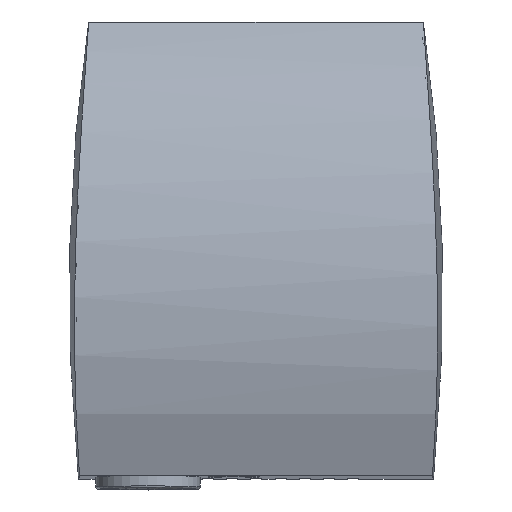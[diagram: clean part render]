
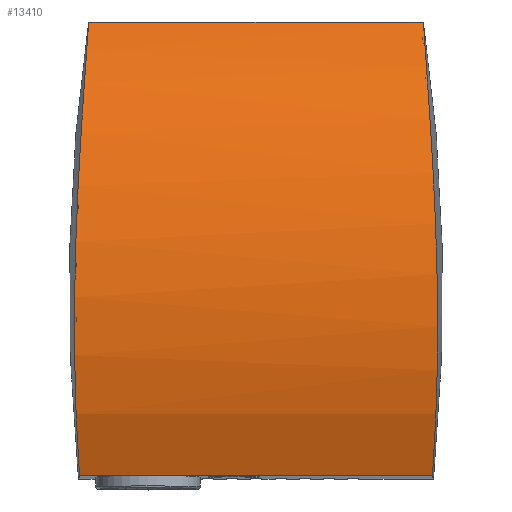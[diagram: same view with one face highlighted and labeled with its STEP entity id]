
A CAD part, top view. The second image highlights one B-rep face of the part: STEP entity #13410.
In plain terms, the highlighted cylindrical face has radius 325 mm (diameter 650 mm), a partial arc.
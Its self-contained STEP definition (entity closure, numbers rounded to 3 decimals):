
#12621=CARTESIAN_POINT('',(145.443,-115.619,174.966));
#12622=VERTEX_POINT('',#12621);
#12630=CARTESIAN_POINT('',(-145.443,-115.619,174.966));
#12631=VERTEX_POINT('',#12630);
#12632=CARTESIAN_POINT('',(-145.443,-115.619,174.966));
#12633=DIRECTION('',(1.0,0.0,0.0));
#12634=VECTOR('',#12633,290.887);
#12635=LINE('',#12632,#12634);
#12636=EDGE_CURVE('',#12631,#12622,#12635,.T.);
#13328=CARTESIAN_POINT('',(0.0,-62.721,-145.7));
#13329=DIRECTION('',(-1.0,0.0,0.0));
#13330=DIRECTION('',(0.0,0.893,0.45));
#13331=AXIS2_PLACEMENT_3D('',#13328,#13329,#13330);
#13332=CYLINDRICAL_SURFACE('',#13331,325.0);
#13333=CARTESIAN_POINT('',(137.911,227.438,0.7));
#13334=VERTEX_POINT('',#13333);
#13335=CARTESIAN_POINT('',(148.234,-62.721,179.3));
#13336=VERTEX_POINT('',#13335);
#13337=CARTESIAN_POINT('',(137.911,227.438,0.7));
#13338=CARTESIAN_POINT('',(138.538,220.587,14.278));
#13339=CARTESIAN_POINT('',(139.257,212.895,27.122));
#13340=CARTESIAN_POINT('',(140.794,195.926,51.699));
#13341=CARTESIAN_POINT('',(141.684,185.846,64.319));
#13342=CARTESIAN_POINT('',(143.504,163.449,88.268));
#13343=CARTESIAN_POINT('',(144.432,151.131,99.596));
#13344=CARTESIAN_POINT('',(146.153,124.897,120.2));
#13345=CARTESIAN_POINT('',(146.944,110.967,129.484));
#13346=CARTESIAN_POINT('',(148.247,82.376,145.575));
#13347=CARTESIAN_POINT('',(148.757,67.713,152.381));
#13348=CARTESIAN_POINT('',(149.431,38.818,163.416));
#13349=CARTESIAN_POINT('',(149.625,23.409,168.106));
#13350=CARTESIAN_POINT('',(149.598,-8.519,175.165));
#13351=CARTESIAN_POINT('',(149.376,-25.036,177.535));
#13352=CARTESIAN_POINT('',(148.736,-48.653,179.072));
#13353=CARTESIAN_POINT('',(148.505,-55.698,179.3));
#13354=CARTESIAN_POINT('',(148.234,-62.721,179.3));
#13355=B_SPLINE_CURVE_WITH_KNOTS('',3,(#13337,#13338,#13339,#13340,#13341,#13342,#13343,#13344,#13345,#13346,#13347,#13348,#13349,#13350,#13351,#13352,#13353,#13354),.UNSPECIFIED.,.F.,.U.,(4,2,2,2,2,2,2,2,4),(51.402,55.723,60.374,65.024,69.674,74.324,78.955,83.586,85.549),.UNSPECIFIED.);
#13356=EDGE_CURVE('',#13334,#13336,#13355,.T.);
#13357=ORIENTED_EDGE('',*,*,#13356,.F.);
#13358=CARTESIAN_POINT('',(-137.911,227.438,0.7));
#13359=VERTEX_POINT('',#13358);
#13360=CARTESIAN_POINT('',(-137.911,227.438,0.7));
#13361=DIRECTION('',(1.0,0.0,0.0));
#13362=VECTOR('',#13361,275.822);
#13363=LINE('',#13360,#13362);
#13364=EDGE_CURVE('',#13359,#13334,#13363,.T.);
#13365=ORIENTED_EDGE('',*,*,#13364,.F.);
#13366=CARTESIAN_POINT('',(-148.234,-62.721,179.3));
#13367=VERTEX_POINT('',#13366);
#13368=CARTESIAN_POINT('',(-148.234,-62.721,179.3));
#13369=CARTESIAN_POINT('',(-148.505,-55.698,179.3));
#13370=CARTESIAN_POINT('',(-148.736,-48.653,179.072));
#13371=CARTESIAN_POINT('',(-149.376,-25.036,177.535));
#13372=CARTESIAN_POINT('',(-149.598,-8.519,175.165));
#13373=CARTESIAN_POINT('',(-149.625,23.409,168.106));
#13374=CARTESIAN_POINT('',(-149.431,38.818,163.416));
#13375=CARTESIAN_POINT('',(-148.757,67.713,152.381));
#13376=CARTESIAN_POINT('',(-148.247,82.376,145.575));
#13377=CARTESIAN_POINT('',(-146.944,110.967,129.484));
#13378=CARTESIAN_POINT('',(-146.153,124.897,120.2));
#13379=CARTESIAN_POINT('',(-144.432,151.131,99.596));
#13380=CARTESIAN_POINT('',(-143.504,163.449,88.268));
#13381=CARTESIAN_POINT('',(-141.684,185.846,64.319));
#13382=CARTESIAN_POINT('',(-140.794,195.926,51.699));
#13383=CARTESIAN_POINT('',(-139.257,212.895,27.122));
#13384=CARTESIAN_POINT('',(-138.538,220.587,14.278));
#13385=CARTESIAN_POINT('',(-137.911,227.438,0.7));
#13386=B_SPLINE_CURVE_WITH_KNOTS('',3,(#13368,#13369,#13370,#13371,#13372,#13373,#13374,#13375,#13376,#13377,#13378,#13379,#13380,#13381,#13382,#13383,#13384,#13385),.UNSPECIFIED.,.F.,.U.,(4,2,2,2,2,2,2,2,4),(26.012,27.974,32.605,37.237,41.887,46.537,51.187,55.837,60.159),.UNSPECIFIED.);
#13387=EDGE_CURVE('',#13367,#13359,#13386,.T.);
#13388=ORIENTED_EDGE('',*,*,#13387,.F.);
#13389=CARTESIAN_POINT('',(-145.443,-115.619,174.966));
#13390=CARTESIAN_POINT('',(-145.98,-107.611,176.287));
#13391=CARTESIAN_POINT('',(-146.476,-99.433,177.327));
#13392=CARTESIAN_POINT('',(-147.427,-81.777,178.877));
#13393=CARTESIAN_POINT('',(-147.867,-72.27,179.3));
#13394=CARTESIAN_POINT('',(-148.234,-62.721,179.3));
#13395=B_SPLINE_CURVE_WITH_KNOTS('',3,(#13389,#13390,#13391,#13392,#13393,#13394),.UNSPECIFIED.,.F.,.U.,(4,2,4),(20.984,23.343,26.012),.UNSPECIFIED.);
#13396=EDGE_CURVE('',#12631,#13367,#13395,.T.);
#13397=ORIENTED_EDGE('',*,*,#13396,.F.);
#13398=ORIENTED_EDGE('',*,*,#12636,.T.);
#13399=CARTESIAN_POINT('',(148.234,-62.721,179.3));
#13400=CARTESIAN_POINT('',(147.867,-72.27,179.3));
#13401=CARTESIAN_POINT('',(147.427,-81.777,178.877));
#13402=CARTESIAN_POINT('',(146.476,-99.433,177.327));
#13403=CARTESIAN_POINT('',(145.98,-107.611,176.287));
#13404=CARTESIAN_POINT('',(145.443,-115.619,174.966));
#13405=B_SPLINE_CURVE_WITH_KNOTS('',3,(#13399,#13400,#13401,#13402,#13403,#13404),.UNSPECIFIED.,.F.,.U.,(4,2,4),(85.549,88.218,90.576),.UNSPECIFIED.);
#13406=EDGE_CURVE('',#13336,#12622,#13405,.T.);
#13407=ORIENTED_EDGE('',*,*,#13406,.F.);
#13408=EDGE_LOOP('',(#13357,#13365,#13388,#13397,#13398,#13407));
#13409=FACE_OUTER_BOUND('',#13408,.T.);
#13410=ADVANCED_FACE('',(#13409),#13332,.T.);
